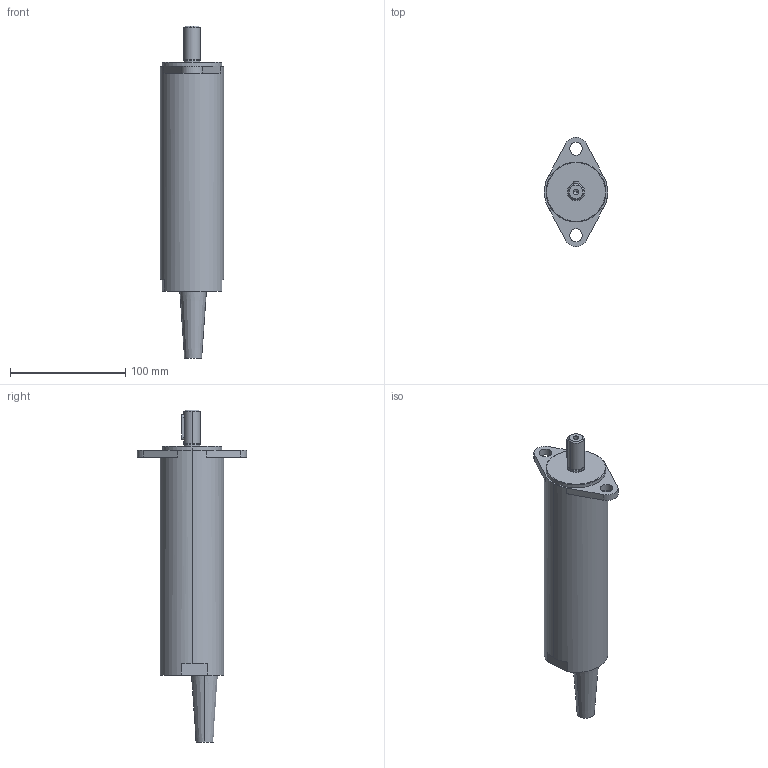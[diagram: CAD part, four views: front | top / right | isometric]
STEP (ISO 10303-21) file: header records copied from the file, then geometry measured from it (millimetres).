
FILE_DESCRIPTION (( 'STEP AP214' ), '1' );
FILE_NAME ('5M34R.step', '2017-06-28T07:21:21', ( '' ), ( '' ), 'SwSTEP 2.0', 'SolidWorks 2015', '' );
FILE_SCHEMA (( 'AUTOMOTIVE_DESIGN' ));
Length unit declared in the file: millimetre
Products named in the file (1): 5M34R
Bounding box: 55 x 94.93 x 288 mm (x, y, z)
Volume: 495027.3 mm3; surface area: 46893.7 mm2
Topology: 1 solids, 1 shells, 56 faces, 131 edges, 83 vertices
Faces by surface type: cylinder 25, plane 21, cone 8, torus 2
Entity records: 1729 total; most frequent: CARTESIAN_POINT 334, DIRECTION 305, ORIENTED_EDGE 258, EDGE_CURVE 129, AXIS2_PLACEMENT_3D 122, VERTEX_POINT 83, EDGE_LOOP 68, CIRCLE 65
